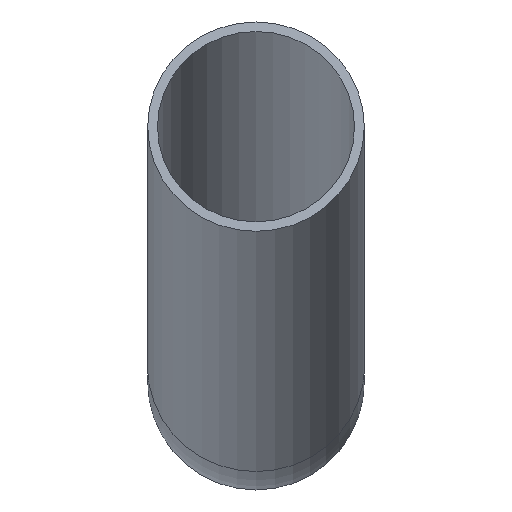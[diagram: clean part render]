
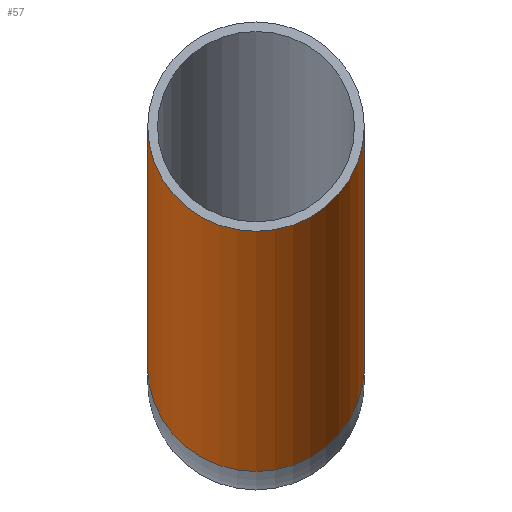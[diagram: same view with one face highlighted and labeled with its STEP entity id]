
A CAD part, front view. The second image highlights one B-rep face of the part: STEP entity #57.
In plain terms, the highlighted cylindrical face has radius 11 mm (diameter 22 mm), a full revolution.
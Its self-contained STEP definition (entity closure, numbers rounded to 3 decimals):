
#57=ADVANCED_FACE('',(#97,#99),#101,.T.);
#97=FACE_OUTER_BOUND('',#98,.T.);
#98=EDGE_LOOP('',(#141));
#99=FACE_OUTER_BOUND('',#100,.T.);
#100=EDGE_LOOP('',(#142));
#101=CYLINDRICAL_SURFACE('',#102,11.);
#102=AXIS2_PLACEMENT_3D('',#103,#104,#105);
#103=CARTESIAN_POINT('',(0.,-5.595,1.499));
#104=DIRECTION('',(0.,-0.966,0.259));
#105=DIRECTION('',(-1.,0.,0.));
#141=ORIENTED_EDGE('',*,*,#153,.T.);
#142=ORIENTED_EDGE('',*,*,#155,.F.);
#153=EDGE_CURVE('',#165,#165,#166,.T.);
#155=EDGE_CURVE('',#169,#169,#170,.T.);
#165=VERTEX_POINT('',#193);
#166=CIRCLE('',#194,11.);
#169=VERTEX_POINT('',#203);
#170=CIRCLE('',#204,11.);
#193=CARTESIAN_POINT('',(-11.,-5.595,1.499));
#194=AXIS2_PLACEMENT_3D('',#195,#196,#197);
#195=CARTESIAN_POINT('',(0.,-5.595,1.499));
#196=DIRECTION('',(0.,-0.966,0.259));
#197=DIRECTION('',(-1.,0.,0.));
#203=CARTESIAN_POINT('',(-11.,-96.593,25.882));
#204=AXIS2_PLACEMENT_3D('',#205,#206,#207);
#205=CARTESIAN_POINT('',(0.,-96.593,25.882));
#206=DIRECTION('',(0.,-0.966,0.259));
#207=DIRECTION('',(-1.,0.,0.));
